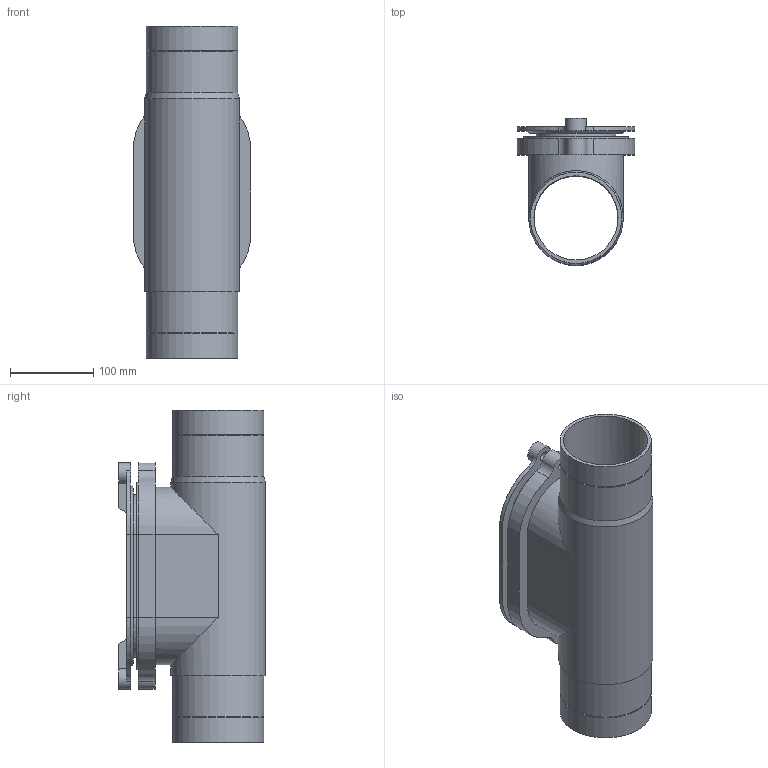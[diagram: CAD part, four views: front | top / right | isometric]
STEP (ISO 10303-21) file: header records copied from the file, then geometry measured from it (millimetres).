
FILE_DESCRIPTION(/* description */ (''),/* implementation_level */ '2;1');
FILE_NAME(/* name */ 'Z:\Geberit\Export\NewStep\367454.stp',/* time_stamp */ '2014-04-02T07:57:07+02:00',/* author */ ('Marco'),/* organization */ (''),/* preprocessor_version */ 'ST-DEVELOPER v15.2',/* originating_system */ 'Autodesk Inventor 2014',/* authorisation */ '');
FILE_SCHEMA (('AUTOMOTIVE_DESIGN { 1 0 10303 214 3 1 1 }'));
Length unit declared in the file: millimetre
Products named in the file (4): 853927; 853424; 853390; 367454
Bounding box: 142 x 177 x 400 mm (x, y, z)
Volume: 1308120.5 mm3; surface area: 488509.2 mm2
Topology: 3 solids, 3 shells, 125 faces, 323 edges, 206 vertices
Faces by surface type: plane 61, cylinder 51, cone 9, bspline 4
Full cylindrical faces by diameter (mm): 8.376 x2, 12 x2, 25 x2, 101.4 x1, 110 x4, 114 x1
Entity records: 4114 total; most frequent: CARTESIAN_POINT 988, DIRECTION 652, ORIENTED_EDGE 612, EDGE_CURVE 302, AXIS2_PLACEMENT_3D 234, VERTEX_POINT 202, LINE 184, VECTOR 184
